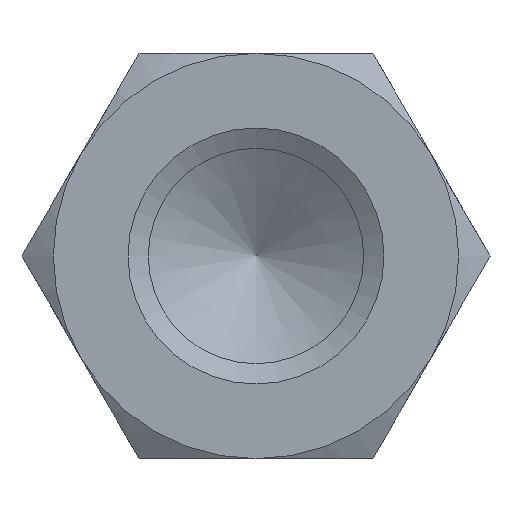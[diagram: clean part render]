
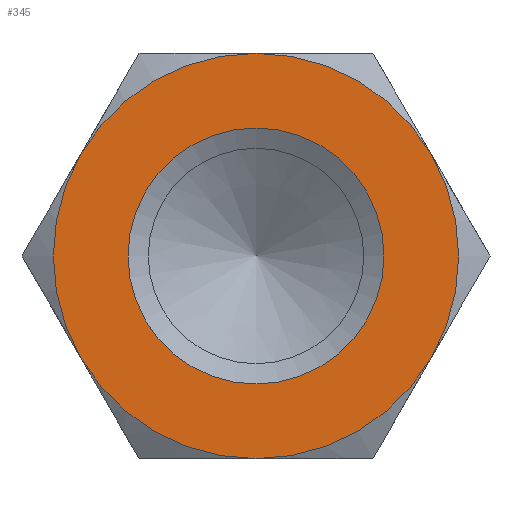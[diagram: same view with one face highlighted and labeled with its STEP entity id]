
A CAD part, left-side view. The second image highlights one B-rep face of the part: STEP entity #345.
In plain terms, the highlighted planar face has unit normal (-1, 0, 0).
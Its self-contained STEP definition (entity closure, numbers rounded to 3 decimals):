
#40=FACE_BOUND('',#80,.T.);
#42=PLANE('',#397);
#54=FACE_OUTER_BOUND('',#79,.T.);
#79=EDGE_LOOP('',(#235,#236,#237,#238,#239,#240));
#80=EDGE_LOOP('',(#241));
#124=CIRCLE('',#392,6.);
#128=CIRCLE('',#398,9.5);
#129=CIRCLE('',#399,9.5);
#130=CIRCLE('',#400,9.5);
#131=CIRCLE('',#401,9.5);
#132=CIRCLE('',#402,9.5);
#133=CIRCLE('',#403,9.5);
#142=VERTEX_POINT('',#534);
#146=VERTEX_POINT('',#546);
#147=VERTEX_POINT('',#547);
#148=VERTEX_POINT('',#549);
#149=VERTEX_POINT('',#551);
#150=VERTEX_POINT('',#553);
#151=VERTEX_POINT('',#555);
#173=EDGE_CURVE('',#142,#142,#124,.T.);
#179=EDGE_CURVE('',#146,#147,#128,.T.);
#180=EDGE_CURVE('',#147,#148,#129,.T.);
#181=EDGE_CURVE('',#148,#149,#130,.T.);
#182=EDGE_CURVE('',#149,#150,#131,.T.);
#183=EDGE_CURVE('',#150,#151,#132,.T.);
#184=EDGE_CURVE('',#151,#146,#133,.T.);
#235=ORIENTED_EDGE('',*,*,#179,.T.);
#236=ORIENTED_EDGE('',*,*,#180,.T.);
#237=ORIENTED_EDGE('',*,*,#181,.T.);
#238=ORIENTED_EDGE('',*,*,#182,.T.);
#239=ORIENTED_EDGE('',*,*,#183,.T.);
#240=ORIENTED_EDGE('',*,*,#184,.T.);
#241=ORIENTED_EDGE('',*,*,#173,.F.);
#345=ADVANCED_FACE('',(#54,#40),#42,.F.);
#392=AXIS2_PLACEMENT_3D('',#535,#438,#439);
#397=AXIS2_PLACEMENT_3D('',#545,#450,#451);
#398=AXIS2_PLACEMENT_3D('',#548,#452,#453);
#399=AXIS2_PLACEMENT_3D('',#550,#454,#455);
#400=AXIS2_PLACEMENT_3D('',#552,#456,#457);
#401=AXIS2_PLACEMENT_3D('',#554,#458,#459);
#402=AXIS2_PLACEMENT_3D('',#556,#460,#461);
#403=AXIS2_PLACEMENT_3D('',#557,#462,#463);
#438=DIRECTION('center_axis',(-1.,0.,0.));
#439=DIRECTION('ref_axis',(0.,0.,-1.));
#450=DIRECTION('center_axis',(1.,0.,0.));
#451=DIRECTION('ref_axis',(0.,0.,-1.));
#452=DIRECTION('center_axis',(-1.,0.,0.));
#453=DIRECTION('ref_axis',(0.,1.,0.));
#454=DIRECTION('center_axis',(-1.,0.,0.));
#455=DIRECTION('ref_axis',(0.,1.,0.));
#456=DIRECTION('center_axis',(-1.,0.,0.));
#457=DIRECTION('ref_axis',(0.,1.,0.));
#458=DIRECTION('center_axis',(-1.,0.,0.));
#459=DIRECTION('ref_axis',(0.,1.,0.));
#460=DIRECTION('center_axis',(-1.,0.,0.));
#461=DIRECTION('ref_axis',(0.,1.,0.));
#462=DIRECTION('center_axis',(-1.,0.,0.));
#463=DIRECTION('ref_axis',(0.,1.,0.));
#534=CARTESIAN_POINT('',(0.,0.,6.));
#535=CARTESIAN_POINT('Origin',(0.,0.,0.));
#545=CARTESIAN_POINT('Origin',(0.,0.,0.));
#546=CARTESIAN_POINT('',(0.,0.,-9.5));
#547=CARTESIAN_POINT('',(0.,-8.227,-4.75));
#548=CARTESIAN_POINT('Origin',(0.,0.,0.));
#549=CARTESIAN_POINT('',(0.,-8.227,4.75));
#550=CARTESIAN_POINT('Origin',(0.,0.,0.));
#551=CARTESIAN_POINT('',(0.,0.,9.5));
#552=CARTESIAN_POINT('Origin',(0.,0.,0.));
#553=CARTESIAN_POINT('',(0.,8.227,4.75));
#554=CARTESIAN_POINT('Origin',(0.,0.,0.));
#555=CARTESIAN_POINT('',(0.,8.227,-4.75));
#556=CARTESIAN_POINT('Origin',(0.,0.,0.));
#557=CARTESIAN_POINT('Origin',(0.,0.,0.));
